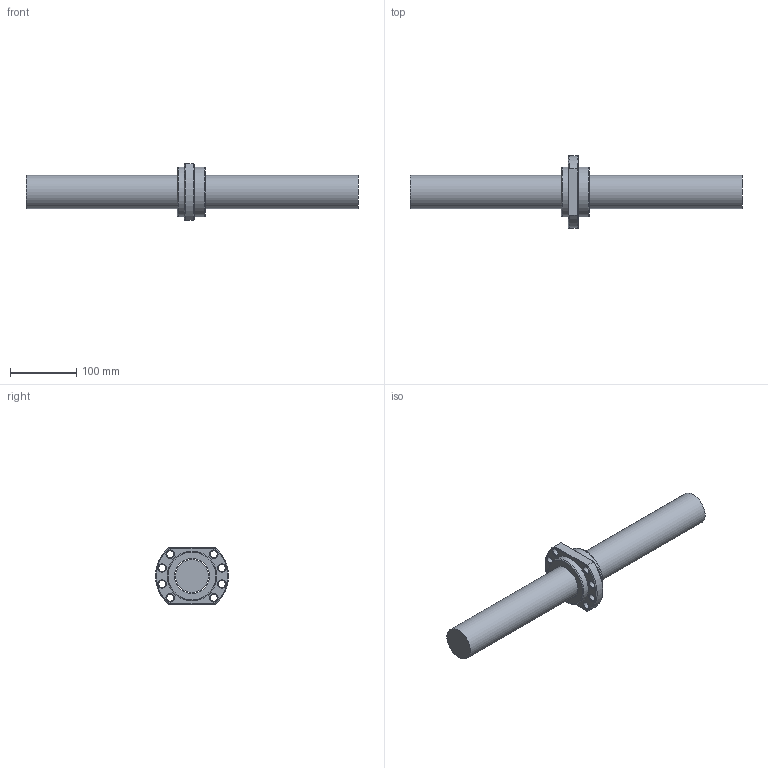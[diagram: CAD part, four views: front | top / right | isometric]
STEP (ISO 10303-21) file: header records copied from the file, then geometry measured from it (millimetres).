
FILE_DESCRIPTION (( 'STEP AP203' ), '1' );
FILE_NAME ('SFA5005-3.8.step', '2024-05-07T07:26:16', ( '' ), ( '' ), 'SwSTEP 2.0', 'SolidWorks 2022', '' );
FILE_SCHEMA (( 'CONFIG_CONTROL_DESIGN' ));
Length unit declared in the file: millimetre
Products named in the file (1): SFA5005-3.8
Bounding box: 500 x 109.65 x 85 mm (x, y, z)
Volume: 1123122.5 mm3; surface area: 115223.6 mm2
Topology: 2 solids, 2 shells, 65 faces, 158 edges, 100 vertices
Faces by surface type: cylinder 23, cone 17, plane 14, torus 6, bspline 5
Full cylindrical faces by diameter (mm): 1.5 x1, 4 x1, 7 x6, 11 x8, 50 x1, 52.2 x1, 75 x2
Entity records: 3473 total; most frequent: CARTESIAN_POINT 2229, DIRECTION 232, ORIENTED_EDGE 192, EDGE_LOOP 116, AXIS2_PLACEMENT_3D 108, EDGE_CURVE 96, VERTEX_POINT 80, FACE_OUTER_BOUND 76
